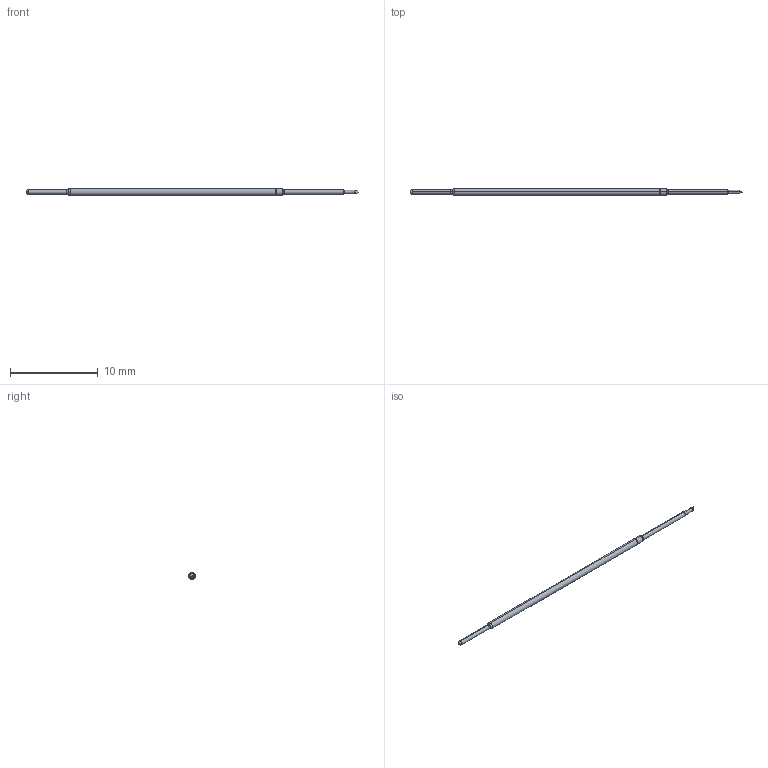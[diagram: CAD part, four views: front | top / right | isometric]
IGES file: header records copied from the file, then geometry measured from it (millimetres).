
Start section: SolidWorks IGES file using analytic representation for surfaces
Global section: file name: C:\Documents and Settings\mrumschlag\Desktop\changes\new\test\I15.IGS; native system: SolidWorks 2011; preprocessor: SolidWorks 2011; author: mrumschlag; date: 110630.142738; units: inch
Bounding box: 37.93 x 0.76 x 0.76 mm (x, y, z)
Surface area: 80.5 mm2 (no closed solid volume)
Topology: 0 solids, 0 shells, 35 faces, 210 edges, 208 vertices
Faces by surface type: revolution 22, bspline 13
